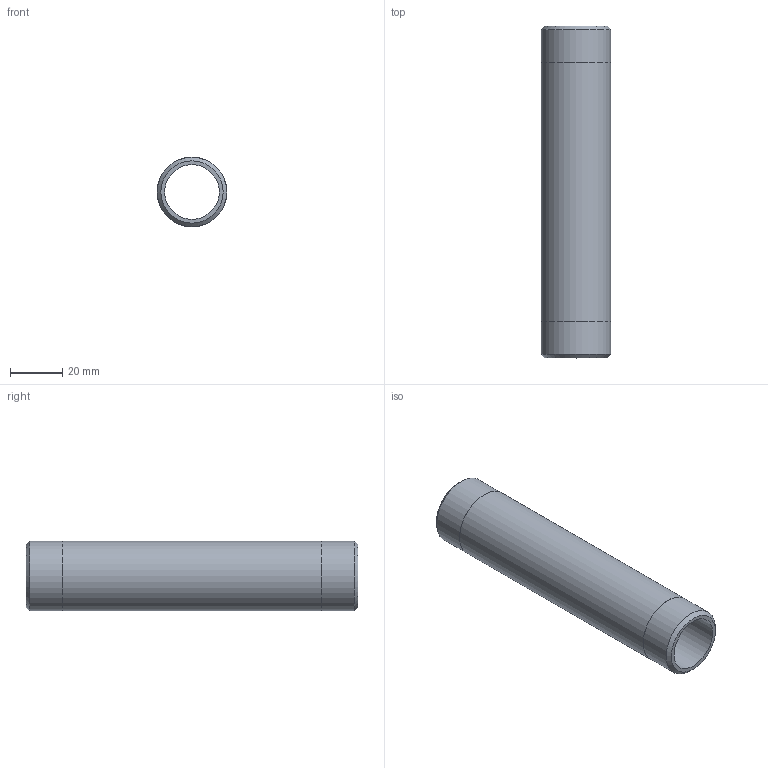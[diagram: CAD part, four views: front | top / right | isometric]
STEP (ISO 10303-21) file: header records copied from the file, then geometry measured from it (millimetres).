
FILE_DESCRIPTION(/* description */ (''),/* implementation_level */ '2;1');
FILE_NAME(/* name */ 'C:/Users/drich/Desktop/SSPN34-5 v1.step',/* time_stamp */ '2020-01-04T13:43:07-06:00',/* author */ (''),/* organization */ (''),/* preprocessor_version */ 'ST-DEVELOPER v18',/* originating_system */ 'Autodesk Translation Framework v8.12.0.6',/* authorisation */ '');
FILE_SCHEMA (('AUTOMOTIVE_DESIGN { 1 0 10303 214 3 1 1 }'));
Length unit declared in the file: inch
Products named in the file (1): SSPN34-5
Bounding box: 26.67 x 127 x 26.67 mm (x, y, z)
Volume: 27038.2 mm3; surface area: 19274.2 mm2
Topology: 1 solids, 1 shells, 10 faces, 24 edges, 18 vertices
Faces by surface type: cylinder 4, plane 4, cone 2
Full cylindrical faces by diameter (mm): 20.93 x1, 26.619 x2, 26.67 x1
Entity records: 353 total; most frequent: DIRECTION 64, CARTESIAN_POINT 53, ORIENTED_EDGE 48, AXIS2_PLACEMENT_3D 29, EDGE_CURVE 24, CIRCLE 18, VERTEX_POINT 18, EDGE_LOOP 14
